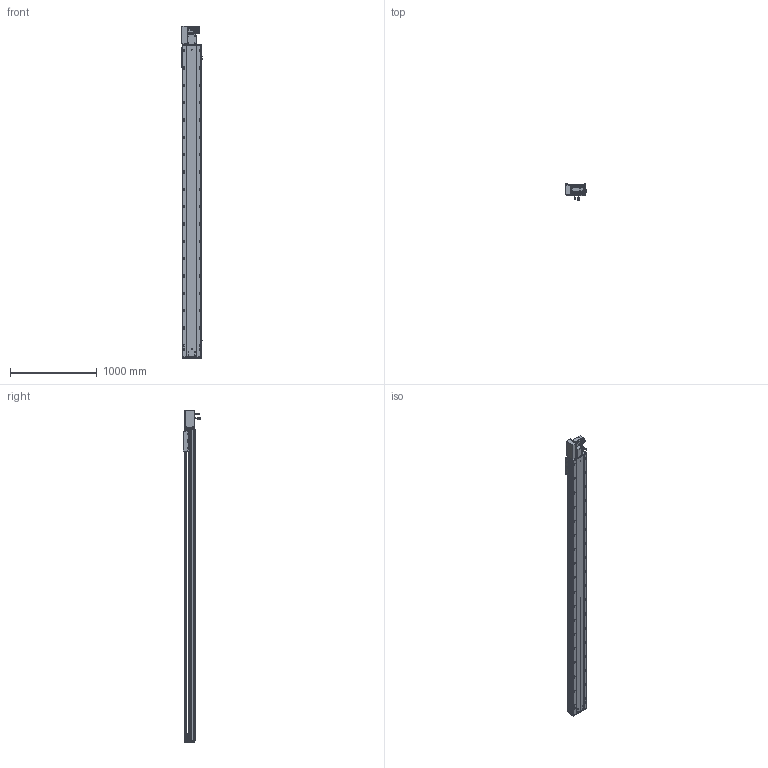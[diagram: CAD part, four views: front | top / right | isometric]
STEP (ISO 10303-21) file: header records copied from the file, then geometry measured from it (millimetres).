
FILE_DESCRIPTION (( 'STEP AP203' ), '1' );
FILE_NAME ('RY220-T-300-LK.SLDASM_3250.step', '2022-07-25T08:17:01', ( '' ), ( '' ), 'SwSTEP 2.0', 'SolidWorks 2016', '' );
FILE_SCHEMA (( 'CONFIG_CONTROL_DESIGN' ));
Length unit declared in the file: millimetre
Products named in the file (14): RY220翋肮祭謫裔啣; RY220-T-蛌殏萇儂假蚾啣(750W); 110A-T-肮祭謫釱傷裔; RY220-T-湍謫欶(鍼踢); RY220-同步轮副支撑座6304×2; RY220-T-300-LK.SLDASM_3250; RY220-俋离672覜茼んえ; 覜茼ん672; RY220-T-300-奻裔啣_3250; 滅袉蝶18-15; RY220-T菁釱-300_3250; 怢湛750W_ECMA-CX0807ES; RY220翋肮祭謫釱; RY220圉猾敕々湍臏賑輸
Assembly tree (18 placements, depth 2):
  RY220-T-300-LK.SLDASM_3250
    RY220-T菁釱-300_3250
    RY220翋肮祭謫釱
    覜茼ん672  x3
    RY220圉猾敕々湍臏賑輸
    RY220-T-300-奻裔啣_3250
    RY220-俋离672覜茼んえ
    滅袉蝶18-15  x3
    RY220翋肮祭謫裔啣  x2
    110A-T-肮祭謫釱傷裔
    怢湛750W_ECMA-CX0807ES
    RY220-T-湍謫欶(鍼踢)
    RY220-T-蛌殏萇儂假蚾啣(750W)
    RY220-同步轮副支撑座6304×2
Bounding box: 239.7 x 198.77 x 3829 mm (x, y, z)
Volume: 26817909.6 mm3; surface area: 8327128.1 mm2
Topology: 19 solids, 19 shells, 3088 faces, 8551 edges, 5344 vertices
Faces by surface type: cylinder 1540, plane 1069, cone 397, bspline 56, sphere 16, torus 10
Entity records: 103139 total; most frequent: CARTESIAN_POINT 29063, ORIENTED_EDGE 15290, DIRECTION 14820, EDGE_CURVE 7645, AXIS2_PLACEMENT_3D 5370, VERTEX_POINT 4968, VECTOR 4080, LINE 4080
